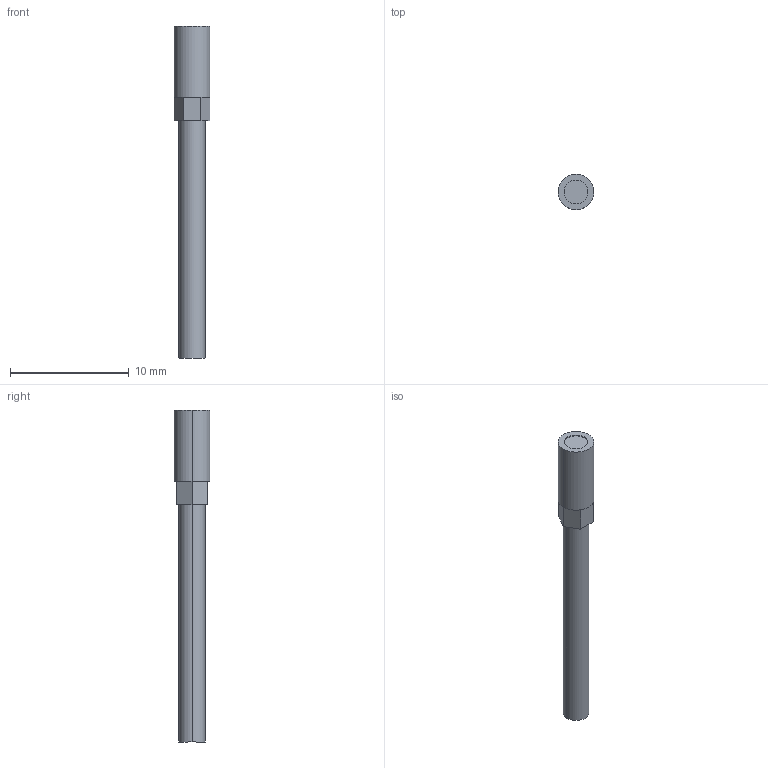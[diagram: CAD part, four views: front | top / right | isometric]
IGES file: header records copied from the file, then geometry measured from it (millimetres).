
Start section: SolidWorks IGES FILE using analytic representation for surfaces
Global section: file name: \\intra-srv04\開発データ\CAD_Data\CAD委員会\3D電子ｶﾀﾛｸﾞ\製品カタログ（新）\0_IGES\FT-WS8L.IGS,41HSolidWorks 2004; native system: by SolidWorks Corporation; preprocessor: Version 5.3; author: mf1158; date: 050908.113142; units: millimetre
Bounding box: 3 x 3 x 28 mm (x, y, z)
Volume: 129.8 mm3; surface area: 227.5 mm2
Topology: 1 solids, 1 shells, 22 faces, 40 edges, 22 vertices
Faces by surface type: plane 16, revolution 6
